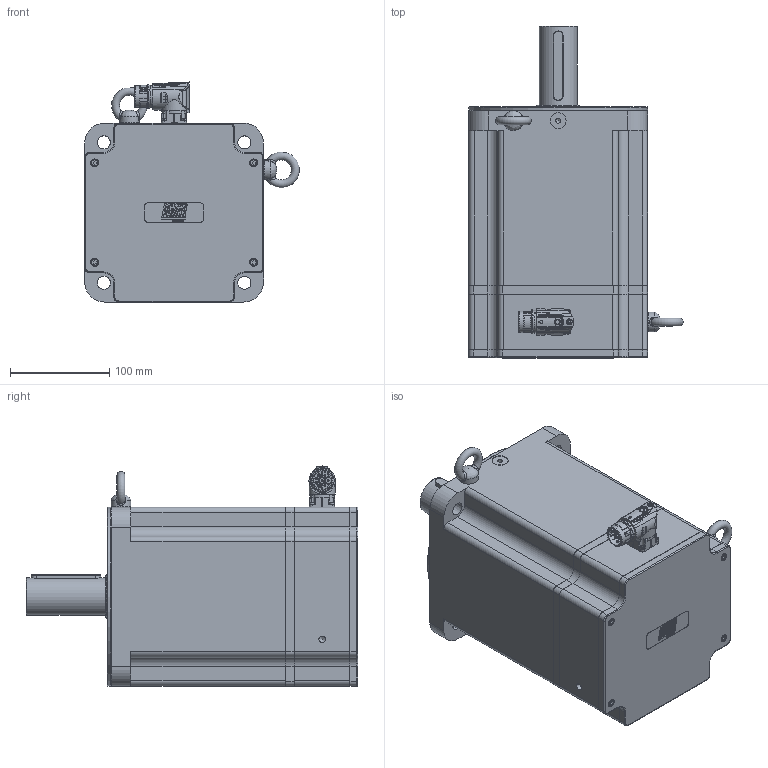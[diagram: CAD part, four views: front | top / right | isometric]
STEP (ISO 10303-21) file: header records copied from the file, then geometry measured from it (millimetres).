
FILE_DESCRIPTION(/* description */ ('Unknown'),/* implementation_level */ '2;1');
FILE_NAME(/* name */ 'TC4-180.7D.X X.X.3.XX.0.X.C21 Q0B807',/* time_stamp */ '2026-03-10T10:54:48+01:00',/* author */ ('Unknown'),/* organization */ ('Unknown'),/* preprocessor_version */ 'ST-DEVELOPER v19.4',/* originating_system */ 'Solid Edge',/* authorisation */ 'Unknown');
FILE_SCHEMA (('AUTOMOTIVE_DESIGN {1 0 10303 214 3 1 1}'));
Products named in the file (14): Q0B807 7D VUOTO; Calotta TC4-180 V8; 003251040631; 005911000479; 003155002233; 005113001040; 005119001064; 005911000185; Coperchio campana TC4-180; 003003199943; 005911000180; 005321000010; 007117000456; Corpo TC4-180 7D
Assembly tree (27 placements, depth 2):
  Q0B807 7D VUOTO
    Calotta TC4-180 V8
    003251040631
    005911000479  x8
    003155002233
    005113001040
    005119001064
    005911000185  x4
    Coperchio campana TC4-180
    003003199943
    005911000180  x4
    005321000010  x2
    007117000456
    Corpo TC4-180 7D
Bounding box: 215.97 x 334 x 221.5 mm (x, y, z)
Volume: 3263311.3 mm3; surface area: 678364.2 mm2
Topology: 29 solids, 29 shells, 1744 faces, 4368 edges, 2790 vertices
Faces by surface type: plane 769, cylinder 386, bspline 227, cone 197, torus 129, sphere 36
Full cylindrical faces by diameter (mm): 1 x4, 1.4 x4, 2 x4, 2.013 x8, 2.5 x4, 2.8 x4, 3 x8, 3.242 x8, 4 x5, 4.134 x24, 4.2 x8, 4.5 x9, 4.7 x4, 4.917 x2, 5 x8, 5.5 x9, 5.8 x1, 5.9 x1, 6.647 x14, 6.8 x1, 7 x6, 8 x6, 9 x4, 10 x5, 10.106 x2, 16 x1, 17.4 x1, 19.9 x1, 20 x3, 21.15 x2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
Entity records: 59960 total; most frequent: CARTESIAN_POINT 15604, ORIENTED_EDGE 6964, DIRECTION 6647, EDGE_CURVE 3482, AXIS2_PLACEMENT_3D 2523, VERTEX_POINT 2411, FACE_BOUND 2045, EDGE_LOOP 2018
